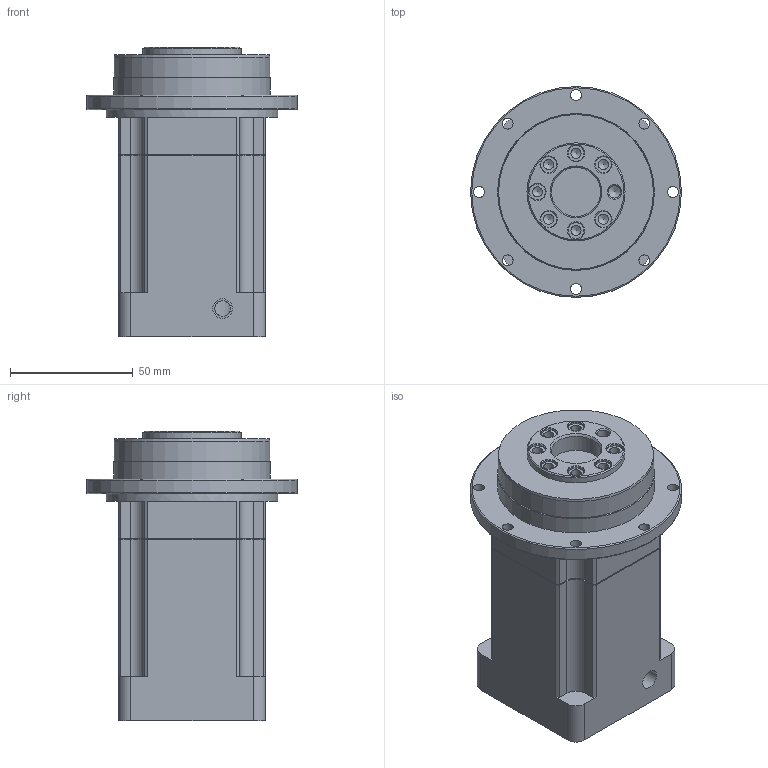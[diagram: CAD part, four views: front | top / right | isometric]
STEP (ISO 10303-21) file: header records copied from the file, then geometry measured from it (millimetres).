
FILE_DESCRIPTION((''),'2;1');
FILE_NAME('D:\유성\유성\도면\3D\2. 홈페이지용 3D 도면 (ipt)\외부도\SPIFH060\SPIFH060 SERIES (2 STAGE)_Shrinkwrap_1.stp','2014-05-08T14:12:40',('nagyu'),(''),'Autodesk Inventor 2013','Autodesk Inventor 2013','');
FILE_SCHEMA(('AUTOMOTIVE_DESIGN { 1 0 10303 214 1 1 1 1 }'));
Length unit declared in the file: millimetre
Products named in the file (1): SPIFH060 SERIES (2 STAGE)_Shrinkwrap_1
Bounding box: 86 x 86 x 118.1 mm (x, y, z)
Volume: 362587.3 mm3; surface area: 47194.5 mm2
Topology: 1 solids, 1 shells, 183 faces, 459 edges, 290 vertices
Faces by surface type: plane 76, cylinder 59, cone 46, torus 2
Full cylindrical faces by diameter (mm): 4.134 x11, 4.5 x8, 5 x1, 6.401 x1, 6.5 x7, 8 x1, 14 x1, 20 x1, 25 x1, 40 x1, 47 x1, 50 x1, 63.5 x1, 64 x1, 70 x1, 86 x1
Entity records: 4986 total; most frequent: CARTESIAN_POINT 905, DIRECTION 886, ORIENTED_EDGE 726, AXIS2_PLACEMENT_3D 364, EDGE_CURVE 363, EDGE_LOOP 286, VERTEX_POINT 265, FACE_OUTER_BOUND 183
